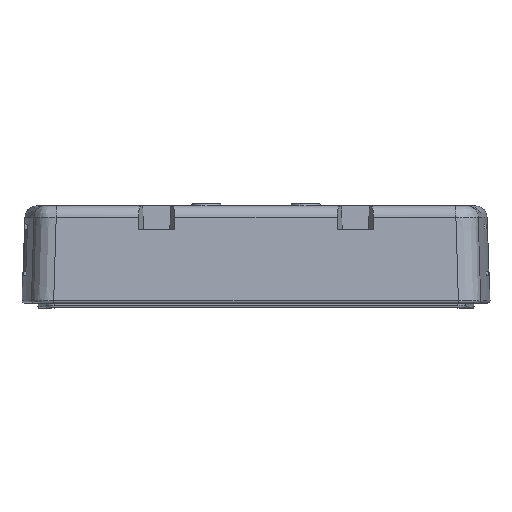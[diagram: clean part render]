
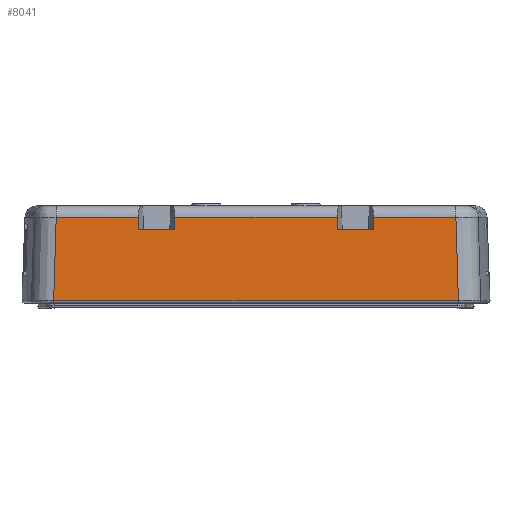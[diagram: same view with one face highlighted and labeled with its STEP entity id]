
A CAD part, front view. The second image highlights one B-rep face of the part: STEP entity #8041.
In plain terms, the highlighted planar face has unit normal (0, -0.999, 0.035) as drawn and (0, 0.999, 0.035) by its records, which use the part's own axes.
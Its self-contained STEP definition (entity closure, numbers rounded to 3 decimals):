
#566 = EDGE_CURVE ( 'NONE', #16803, #10197, #19264, .T. ) ;
#744 = CARTESIAN_POINT ( 'NONE',  ( -45.824, 31.982, 0.517 ) ) ;
#1974 = LINE ( 'NONE', #39759, #10954 ) ;
#3417 = VECTOR ( 'NONE', #18594, 1000. ) ;
#3895 = EDGE_CURVE ( 'NONE', #10197, #4496, #5012, .T. ) ;
#4158 = EDGE_CURVE ( 'NONE', #40714, #5930, #10400, .T. ) ;
#4476 = LINE ( 'NONE', #11020, #11616 ) ;
#4496 = VERTEX_POINT ( 'NONE', #10965 ) ;
#4707 = VECTOR ( 'NONE', #38689, 1000. ) ;
#4905 = DIRECTION ( 'NONE',  ( 0.027, 0.035, -0.999 ) ) ;
#5012 = LINE ( 'NONE', #12219, #5623 ) ;
#5623 = VECTOR ( 'NONE', #18490, 1000. ) ;
#5914 = CARTESIAN_POINT ( 'NONE',  ( -26.537, 31.42, 16.6 ) ) ;
#5930 = VERTEX_POINT ( 'NONE', #42937 ) ;
#6251 = DIRECTION ( 'NONE',  ( 1., 0., 0. ) ) ;
#7232 = CARTESIAN_POINT ( 'NONE',  ( -50.157, 31.42, 16.6 ) ) ;
#7381 = EDGE_LOOP ( 'NONE', ( #31162, #7817, #15256, #12372, #33535, #26948, #21290, #34858, #16568, #32298, #27808, #13308 ) ) ;
#7817 = ORIENTED_EDGE ( 'NONE', *, *, #36710, .T. ) ;
#8041 = ADVANCED_FACE ( 'NONE', ( #9784 ), #43710, .T. ) ;
#9375 = EDGE_CURVE ( 'NONE', #5930, #42236, #29173, .T. ) ;
#9566 = CARTESIAN_POINT ( 'NONE',  ( -50.157, 32., 0. ) ) ;
#9784 = FACE_OUTER_BOUND ( 'NONE', #7381, .T. ) ;
#10197 = VERTEX_POINT ( 'NONE', #13471 ) ;
#10378 = CARTESIAN_POINT ( 'NONE',  ( -45.258, 31.323, 19.394 ) ) ;
#10400 = LINE ( 'NONE', #7232, #22854 ) ;
#10875 = LINE ( 'NONE', #744, #39755 ) ;
#10954 = VECTOR ( 'NONE', #6251, 1000. ) ;
#10965 = CARTESIAN_POINT ( 'NONE',  ( -45.824, 31.982, 0.517 ) ) ;
#11020 = CARTESIAN_POINT ( 'NONE',  ( -26.612, 31.323, 19.394 ) ) ;
#11616 = VECTOR ( 'NONE', #4905, 1000. ) ;
#11715 = VECTOR ( 'NONE', #30731, 1000. ) ;
#12219 = CARTESIAN_POINT ( 'NONE',  ( -50.157, 31.982, 0.517 ) ) ;
#12372 = ORIENTED_EDGE ( 'NONE', *, *, #3895, .T. ) ;
#12456 = CARTESIAN_POINT ( 'NONE',  ( -50.157, 31.323, 19.394 ) ) ;
#13119 = CARTESIAN_POINT ( 'NONE',  ( -18.388, 31.323, 19.394 ) ) ;
#13308 = ORIENTED_EDGE ( 'NONE', *, *, #30549, .T. ) ;
#13471 = CARTESIAN_POINT ( 'NONE',  ( 45.806, 31.982, 0.517 ) ) ;
#13570 = DIRECTION ( 'NONE',  ( 0., 0.999, 0.035 ) ) ;
#13622 = EDGE_CURVE ( 'NONE', #4496, #18343, #10875, .T. ) ;
#15256 = ORIENTED_EDGE ( 'NONE', *, *, #566, .T. ) ;
#15791 = DIRECTION ( 'NONE',  ( 1., 0., 0. ) ) ;
#16248 = LINE ( 'NONE', #12456, #24607 ) ;
#16568 = ORIENTED_EDGE ( 'NONE', *, *, #9375, .T. ) ;
#16791 = LINE ( 'NONE', #37255, #11715 ) ;
#16803 = VERTEX_POINT ( 'NONE', #17662 ) ;
#17662 = CARTESIAN_POINT ( 'NONE',  ( 45.241, 31.323, 19.394 ) ) ;
#18343 = VERTEX_POINT ( 'NONE', #10378 ) ;
#18363 = VERTEX_POINT ( 'NONE', #34409 ) ;
#18490 = DIRECTION ( 'NONE',  ( -1., 0., 0. ) ) ;
#18594 = DIRECTION ( 'NONE',  ( 0.03, 0.035, -0.999 ) ) ;
#19264 = LINE ( 'NONE', #22441, #3417 ) ;
#19324 = CARTESIAN_POINT ( 'NONE',  ( 26.537, 31.42, 16.6 ) ) ;
#19505 = CARTESIAN_POINT ( 'NONE',  ( 18.388, 31.323, 19.394 ) ) ;
#20155 = CARTESIAN_POINT ( 'NONE',  ( 18.388, 31.323, 19.394 ) ) ;
#21290 = ORIENTED_EDGE ( 'NONE', *, *, #43034, .T. ) ;
#21585 = AXIS2_PLACEMENT_3D ( 'NONE', #9566, #13570, #37637 ) ;
#22441 = CARTESIAN_POINT ( 'NONE',  ( 45.241, 31.323, 19.394 ) ) ;
#22854 = VECTOR ( 'NONE', #28151, 1000. ) ;
#23201 = VERTEX_POINT ( 'NONE', #24364 ) ;
#24364 = CARTESIAN_POINT ( 'NONE',  ( -26.612, 31.323, 19.394 ) ) ;
#24607 = VECTOR ( 'NONE', #15791, 1000. ) ;
#26051 = LINE ( 'NONE', #19505, #28144 ) ;
#26271 = DIRECTION ( 'NONE',  ( 0.027, 0.035, -0.999 ) ) ;
#26948 = ORIENTED_EDGE ( 'NONE', *, *, #37616, .T. ) ;
#27169 = CARTESIAN_POINT ( 'NONE',  ( 18.463, 31.42, 16.6 ) ) ;
#27808 = ORIENTED_EDGE ( 'NONE', *, *, #43136, .T. ) ;
#28138 = VECTOR ( 'NONE', #30618, 1000. ) ;
#28144 = VECTOR ( 'NONE', #26271, 1000. ) ;
#28151 = DIRECTION ( 'NONE',  ( 1., 0., 0. ) ) ;
#29039 = CARTESIAN_POINT ( 'NONE',  ( -50.157, 31.323, 19.394 ) ) ;
#29173 = LINE ( 'NONE', #31651, #30163 ) ;
#30163 = VECTOR ( 'NONE', #42210, 1000. ) ;
#30549 = EDGE_CURVE ( 'NONE', #32955, #42711, #1974, .T. ) ;
#30618 = DIRECTION ( 'NONE',  ( 0.027, -0.035, 0.999 ) ) ;
#30731 = DIRECTION ( 'NONE',  ( 1., 0., 0. ) ) ;
#31162 = ORIENTED_EDGE ( 'NONE', *, *, #35643, .T. ) ;
#31651 = CARTESIAN_POINT ( 'NONE',  ( -18.463, 31.42, 16.6 ) ) ;
#31966 = LINE ( 'NONE', #29039, #4707 ) ;
#32298 = ORIENTED_EDGE ( 'NONE', *, *, #42506, .T. ) ;
#32955 = VERTEX_POINT ( 'NONE', #27169 ) ;
#33535 = ORIENTED_EDGE ( 'NONE', *, *, #13622, .T. ) ;
#34409 = CARTESIAN_POINT ( 'NONE',  ( 26.612, 31.323, 19.394 ) ) ;
#34858 = ORIENTED_EDGE ( 'NONE', *, *, #4158, .T. ) ;
#35050 = VERTEX_POINT ( 'NONE', #20155 ) ;
#35643 = EDGE_CURVE ( 'NONE', #42711, #18363, #37588, .T. ) ;
#36710 = EDGE_CURVE ( 'NONE', #18363, #16803, #16248, .T. ) ;
#37255 = CARTESIAN_POINT ( 'NONE',  ( -50.157, 31.323, 19.394 ) ) ;
#37588 = LINE ( 'NONE', #40735, #28138 ) ;
#37616 = EDGE_CURVE ( 'NONE', #18343, #23201, #16791, .T. ) ;
#37637 = DIRECTION ( 'NONE',  ( 0., 0.035, -0.999 ) ) ;
#38689 = DIRECTION ( 'NONE',  ( 1., 0., 0. ) ) ;
#39755 = VECTOR ( 'NONE', #44212, 1000. ) ;
#39759 = CARTESIAN_POINT ( 'NONE',  ( -50.157, 31.42, 16.6 ) ) ;
#40714 = VERTEX_POINT ( 'NONE', #5914 ) ;
#40735 = CARTESIAN_POINT ( 'NONE',  ( 26.537, 31.42, 16.6 ) ) ;
#42210 = DIRECTION ( 'NONE',  ( 0.027, -0.035, 0.999 ) ) ;
#42236 = VERTEX_POINT ( 'NONE', #13119 ) ;
#42506 = EDGE_CURVE ( 'NONE', #42236, #35050, #31966, .T. ) ;
#42711 = VERTEX_POINT ( 'NONE', #19324 ) ;
#42937 = CARTESIAN_POINT ( 'NONE',  ( -18.463, 31.42, 16.6 ) ) ;
#43034 = EDGE_CURVE ( 'NONE', #23201, #40714, #4476, .T. ) ;
#43136 = EDGE_CURVE ( 'NONE', #35050, #32955, #26051, .T. ) ;
#43710 = PLANE ( 'NONE',  #21585 ) ;
#44212 = DIRECTION ( 'NONE',  ( 0.03, -0.035, 0.999 ) ) ;
